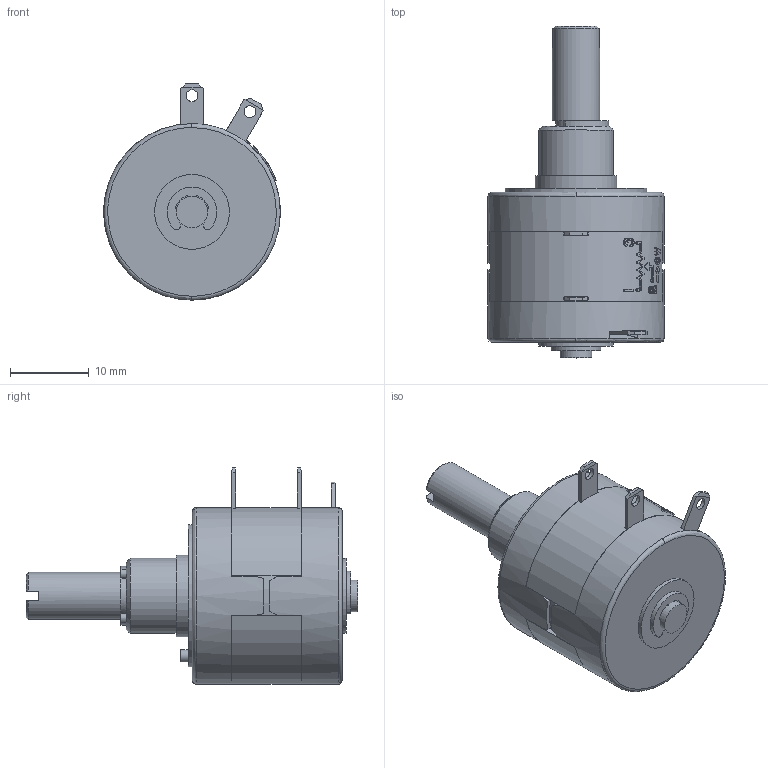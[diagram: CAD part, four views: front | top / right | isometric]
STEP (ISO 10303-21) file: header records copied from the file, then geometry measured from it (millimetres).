
FILE_DESCRIPTION (( 'STEP AP214' ), '1' );
FILE_NAME ('3-D_ALI(R)1910M-logofrei.STEP', '2019-05-16T07:15:01', ( '' ), ( '' ), 'SwSTEP 2.0', 'SolidWorks 2017', '' );
FILE_SCHEMA (( 'AUTOMOTIVE_DESIGN' ));
Length unit declared in the file: millimetre
Products named in the file (3): lock washer for shafts_din_PreviewCfg; AL1910M; 3-D_ALI(R)1910M-logofrei
Assembly tree (2 placements, depth 2):
  3-D_ALI(R)1910M-logofrei
    AL1910M
    lock washer for shafts_din_PreviewCfg
Bounding box: 22.4 x 42.12 x 27.45 mm (x, y, z)
Volume: 5239.6 mm3; surface area: 5720.6 mm2
Topology: 4 solids, 5 shells, 527 faces, 1494 edges, 983 vertices
Faces by surface type: plane 205, bspline 199, cylinder 102, cone 21
Full cylindrical faces by diameter (mm): 1.5 x3, 1.52 x1, 4 x2, 5.1 x1, 6 x2, 6.35 x3, 8 x1, 9.5 x1, 9.525 x1, 10.32 x1, 18 x1, 22.4 x2
Entity records: 29065 total; most frequent: CARTESIAN_POINT 16824, ORIENTED_EDGE 2910, DIRECTION 1897, EDGE_CURVE 1455, VERTEX_POINT 972, VECTOR 693, LINE 693, AXIS2_PLACEMENT_3D 602
